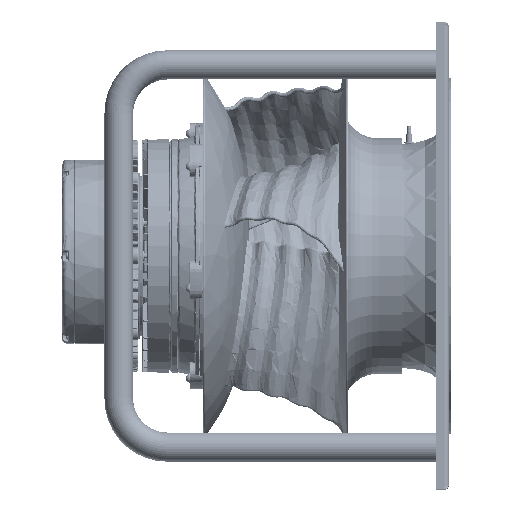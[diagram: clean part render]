
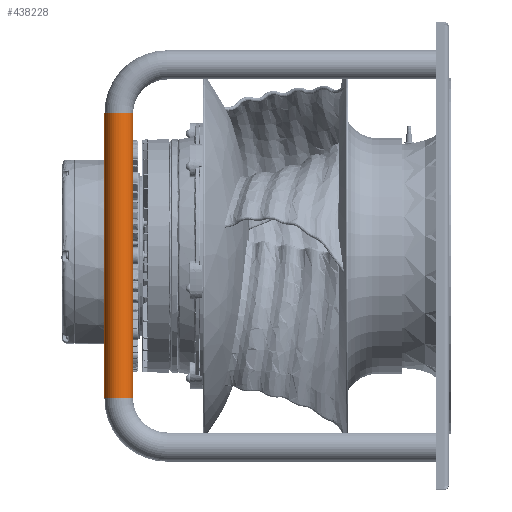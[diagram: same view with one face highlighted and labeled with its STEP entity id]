
A CAD part, top view. The second image highlights one B-rep face of the part: STEP entity #438228.
In plain terms, the highlighted cylindrical face has radius 16.85 mm (diameter 33.7 mm), a partial arc.
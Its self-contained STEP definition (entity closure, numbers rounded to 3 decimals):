
#418330=CARTESIAN_POINT('',(-73.5,168.,200.));
#418331=DIRECTION('',(0.,-1.,0.));
#418332=DIRECTION('',(1.,0.,0.));
#418333=AXIS2_PLACEMENT_3D('',#418330,#418331,#418332);
#418335=DIRECTION('',(0.,-1.,0.));
#418336=VECTOR('',#418335,336.);
#418337=CARTESIAN_POINT('',(-56.65,168.,200.));
#418338=LINE('',#418337,#418336);
#418344=DIRECTION('',(0.,-1.,0.));
#418345=VECTOR('',#418344,336.);
#418346=CARTESIAN_POINT('',(-90.35,168.,200.));
#418347=LINE('',#418346,#418345);
#418358=CARTESIAN_POINT('',(-73.5,-168.,200.));
#418359=DIRECTION('',(0.,-1.,0.));
#418360=DIRECTION('',(1.,0.,0.));
#418361=AXIS2_PLACEMENT_3D('',#418358,#418359,#418360);
#427782=CARTESIAN_POINT('',(-56.65,168.,200.));
#427783=CARTESIAN_POINT('',(-90.35,168.,200.));
#427784=VERTEX_POINT('',#427782);
#427785=VERTEX_POINT('',#427783);
#427790=CARTESIAN_POINT('',(-56.65,-168.,200.));
#427791=CARTESIAN_POINT('',(-90.35,-168.,200.));
#427792=VERTEX_POINT('',#427790);
#427793=VERTEX_POINT('',#427791);
#438214=CARTESIAN_POINT('',(-73.5,168.,200.));
#438215=DIRECTION('',(0.,-1.,0.));
#438216=DIRECTION('',(1.,0.,0.));
#438217=AXIS2_PLACEMENT_3D('',#438214,#438215,#438216);
#438218=CYLINDRICAL_SURFACE('',#438217,16.85);
#438219=ORIENTED_EDGE('',*,*,#438208,.F.);
#438221=ORIENTED_EDGE('',*,*,#438220,.T.);
#438223=ORIENTED_EDGE('',*,*,#438222,.T.);
#438225=ORIENTED_EDGE('',*,*,#438224,.F.);
#438226=EDGE_LOOP('',(#438219,#438221,#438223,#438225));
#438227=FACE_OUTER_BOUND('',#438226,.F.);
#418334=CIRCLE('',#418333,16.85);
#418362=CIRCLE('',#418361,16.85);
#438208=EDGE_CURVE('',#427784,#427785,#418334,.T.);
#438220=EDGE_CURVE('',#427784,#427792,#418338,.T.);
#438222=EDGE_CURVE('',#427792,#427793,#418362,.T.);
#438224=EDGE_CURVE('',#427785,#427793,#418347,.T.);
#438228=ADVANCED_FACE('',(#438227),#438218,.T.);
